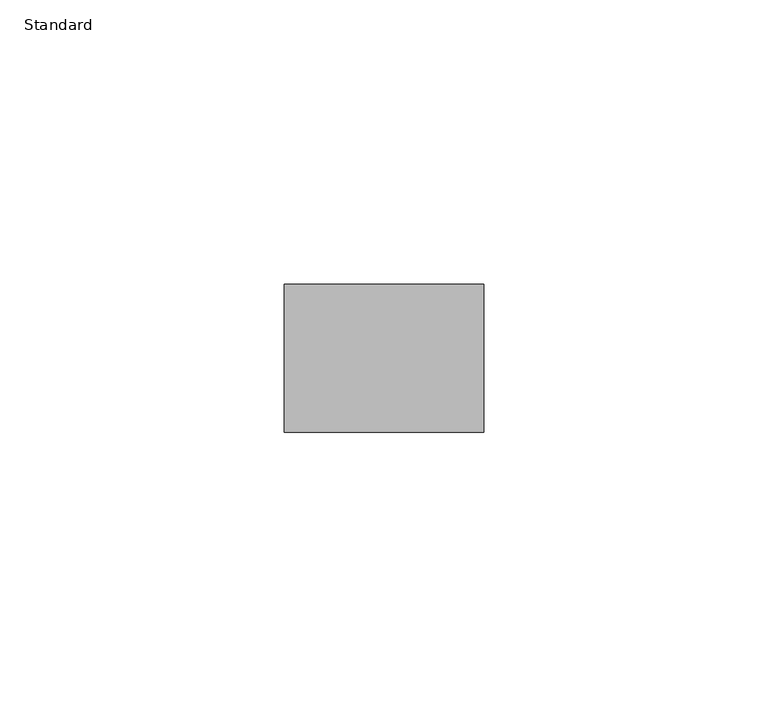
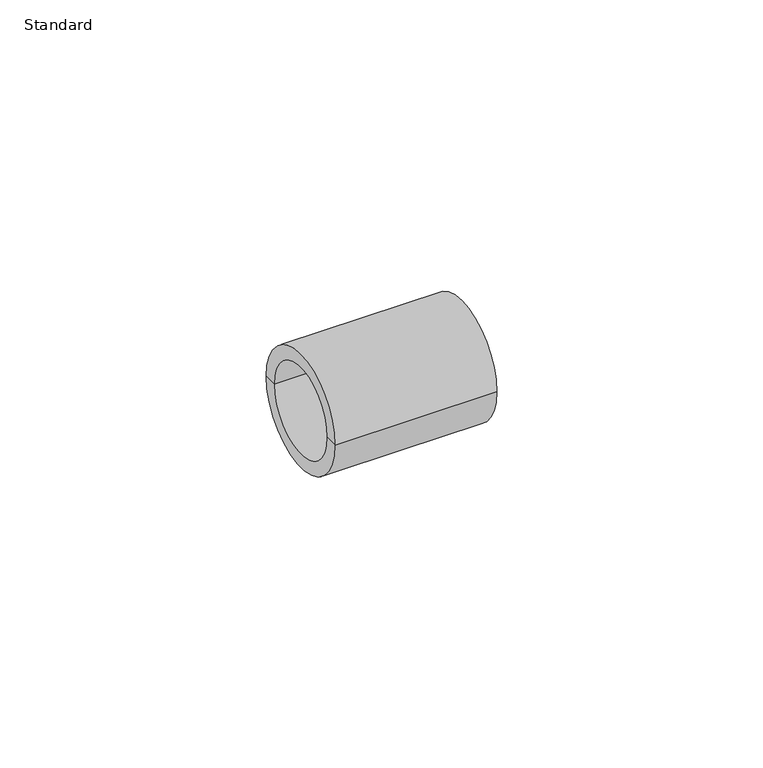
"""IFC4 building model written with IfcOpenShell, lengths in millimetres: pipe fitting geometry, Durapipe_PipeFitting_PVC_Socket : Standard."""

import ifcopenshell
import ifcopenshell.guid

model = None  # the IFC model being written
_history = None  # IfcOwnerHistory: only IFC2X3 demands one
_inside = {}  # id of a spatial element -> (the spatial element, [elements in it])
_under = {}  # id of a project, library or spatial element -> (it, [spatial elements below it])
_declared = {}  # id of a project -> (the project, [libraries it declares])
_typed = {}  # id of a type object -> (the type object, [elements of that type])
_made_of = {}  # id of a material, layer set ... -> (it, [elements and type objects made of it])


def new_model(schema):
    """Start an empty IFC model of exactly this schema.

    Asked for "IFC4X3", IfcOpenShell would pick the latest addendum, in which some entities
    have other attributes; the version numbers below select the first issue.
    IFC2X3 requires an IfcOwnerHistory on every rooted entity: one is made here for all.
    """
    global model, _history
    if schema == "IFC4X3":
        model = ifcopenshell.file(schema_version=(4, 3, 0, 0))
    else:
        model = ifcopenshell.file(schema=schema)
    _inside.clear()
    _under.clear()
    _declared.clear()
    _typed.clear()
    _made_of.clear()
    _history = None
    if model.schema == "IFC2X3":
        org = make("IfcOrganization", Name="unknown")
        user = make(
            "IfcPersonAndOrganization",
            ThePerson=make("IfcPerson", FamilyName="unknown"),
            TheOrganization=org,
        )
        app = make(
            "IfcApplication",
            ApplicationDeveloper=org,
            Version="unknown",
            ApplicationFullName="unknown",
            ApplicationIdentifier="unknown",
        )
        _history = make(
            "IfcOwnerHistory",
            OwningUser=user,
            OwningApplication=app,
            ChangeAction="ADDED",
            CreationDate=0,
        )
    return model


def make(cls, **values):
    """One entity of the class cls with the attributes given. An attribute that is None is left unset."""
    return model.create_entity(
        cls, **{name: value for name, value in values.items() if value is not None}
    )


def rooted(cls, **values):
    """An entity with a GlobalId (a new one), such as an element, a storey or a relation."""
    return make(cls, GlobalId=ifcopenshell.guid.new(), OwnerHistory=_history, **values)


def si_unit(unit_type, name, prefix=None):
    """IfcSIUnit, for example si_unit("LENGTHUNIT", "METRE", prefix="MILLI")."""
    return make("IfcSIUnit", UnitType=unit_type, Prefix=prefix, Name=name)


def assignment(units):
    """IfcUnitAssignment: the units of a project."""
    return None if units is None else make("IfcUnitAssignment", Units=units)


def point(xyz):
    """IfcCartesianPoint."""
    return None if xyz is None else make("IfcCartesianPoint", Coordinates=xyz)


def direction(xyz):
    """IfcDirection."""
    return None if xyz is None else make("IfcDirection", DirectionRatios=xyz)


def frame(location, z_axis=None, x_axis=None):
    """IfcAxis2Placement3D, a coordinate frame: its origin and axes. An axis left out is left unset."""
    return make(
        "IfcAxis2Placement3D",
        Location=point(location),
        Axis=direction(z_axis),
        RefDirection=direction(x_axis),
    )


def origin():
    """The frame at (0, 0, 0) with its axes left unset."""
    return frame((0.0, 0.0, 0.0))


def place(relative_to, where):
    """IfcLocalPlacement: puts the frame where relative to a parent placement (None: the world)."""
    return make(
        "IfcLocalPlacement", PlacementRelTo=relative_to, RelativePlacement=where
    )


def context(
    kind, dimensions, precision=None, world=None, true_north=None, identifier=None
):
    """IfcGeometricRepresentationContext, for example the 3D "Model" context."""
    return make(
        "IfcGeometricRepresentationContext",
        ContextIdentifier=identifier,
        ContextType=kind,
        CoordinateSpaceDimension=dimensions,
        Precision=precision,
        WorldCoordinateSystem=world,
        TrueNorth=true_north,
    )


def project(units=None, contexts=None):
    """IfcProject with its units and contexts."""
    return rooted(
        "IfcProject",
        Name="project",
        RepresentationContexts=contexts,
        UnitsInContext=assignment(units),
    )


def spatial(cls, under=None, at=None, **own):
    """A site, building, storey or space (cls), placed at a placement, below another one or the project."""
    s = rooted(cls, ObjectPlacement=at, **own)
    if under is not None:
        _under.setdefault(under.id(), (under, []))[1].append(s)
    return s


def polyline(points):
    """IfcPolyline through the points."""
    return make("IfcPolyline", Points=[point(p) for p in points])


def circle_curve(where, radius):
    """IfcCircle in the frame where."""
    return make("IfcCircle", Position=where, Radius=radius)


def shape(context_of_items, identifier, shape_type, items):
    """IfcShapeRepresentation: the items that make up one representation, for example the "Body"."""
    return make(
        "IfcShapeRepresentation",
        ContextOfItems=context_of_items,
        RepresentationIdentifier=identifier,
        RepresentationType=shape_type,
        Items=items,
    )


def source(mapping_origin, context_of_items, identifier, shape_type, items):
    """IfcRepresentationMap: a shape defined once, which mapped items show again and again."""
    return make(
        "IfcRepresentationMap",
        MappingOrigin=mapping_origin,
        MappedRepresentation=shape(context_of_items, identifier, shape_type, items),
    )


def transform(
    local_origin,
    x_axis=None,
    y_axis=None,
    z_axis=None,
    scale=None,
    scale2=None,
    scale3=None,
    uniform=True,
):
    """IfcCartesianTransformationOperator3D, or its non-uniform kind. x_axis, y_axis, z_axis: its Axis1, 2, 3."""
    if uniform:
        return make(
            "IfcCartesianTransformationOperator3D",
            Axis1=direction(x_axis),
            Axis2=direction(y_axis),
            LocalOrigin=point(local_origin),
            Scale=scale,
            Axis3=direction(z_axis),
        )
    return make(
        "IfcCartesianTransformationOperator3DnonUniform",
        Axis1=direction(x_axis),
        Axis2=direction(y_axis),
        LocalOrigin=point(local_origin),
        Scale=scale,
        Axis3=direction(z_axis),
        Scale2=scale2,
        Scale3=scale3,
    )


def mapped(mapping_source, mapping_target):
    """IfcMappedItem: shows the shape of a source again, moved by a transform."""
    return make(
        "IfcMappedItem", MappingSource=mapping_source, MappingTarget=mapping_target
    )


def made_of(thing, what):
    """Note that an element or type object is made of a material, layer set ...; save() writes the relation."""
    if what is not None:
        _made_of.setdefault(what.id(), (what, []))[1].append(thing)
    return thing


def element(
    cls,
    number,
    at=None,
    inside=None,
    cuts=None,
    type_object=None,
    material=None,
    context=None,
    identifier="Body",
    shape_type=None,
    held_by="IfcProductDefinitionShape",
    body=None,
    shapes=None,
    **own,
):
    """One element of the class cls, such as IfcWall. Its Tag is "e" and its number.

    at: its placement. inside: the storey or other place that contains it. cuts: it is an
    opening in that element (IfcRelVoidsElement). A single representation is given by context,
    identifier, shape_type and body (its items); several are given by shapes. held_by: the class
    of the entity that holds the representations. save() writes the other relations.
    """
    e = rooted(cls, Tag="e%d" % number, ObjectPlacement=at, **own)
    if body is not None:
        shapes = [shape(context, identifier, shape_type, body)]
    if shapes is not None:
        e.Representation = make(held_by, Representations=shapes)
    if inside is not None:
        _inside.setdefault(inside.id(), (inside, []))[1].append(e)
    if cuts is not None:
        rooted(
            "IfcRelVoidsElement", RelatingBuildingElement=cuts, RelatedOpeningElement=e
        )
    if type_object is not None:
        _typed.setdefault(type_object.id(), (type_object, []))[1].append(e)
    return made_of(e, material)


def aggregate(whole, parts):
    """IfcRelAggregates: a whole, such as a stair, and the parts it consists of."""
    return rooted("IfcRelAggregates", RelatingObject=whole, RelatedObjects=parts)


def save(model, path):
    """Write the relations noted so far, then the file.

    IfcRelAggregates (storeys below a building ...), IfcRelContainedInSpatialStructure (elements
    in a storey), IfcRelDefinesByType, IfcRelAssociatesMaterial and IfcRelDeclares: one each for
    every whole, place, type object, material and project.
    """
    for whole, parts in _under.values():
        aggregate(whole, parts)
    for where, things in _inside.values():
        rooted(
            "IfcRelContainedInSpatialStructure",
            RelatedElements=things,
            RelatingStructure=where,
        )
    for kind, things in _typed.values():
        rooted("IfcRelDefinesByType", RelatedObjects=things, RelatingType=kind)
    for what, things in _made_of.values():
        rooted("IfcRelAssociatesMaterial", RelatedObjects=things, RelatingMaterial=what)
    for by, libraries in _declared.values():
        rooted("IfcRelDeclares", RelatingContext=by, RelatedDefinitions=libraries)
    model.write(path)


def plane_surface(at):
    """IfcPlane: the flat surface through the origin of the frame at, square to its z axis."""
    return make("IfcPlane", Position=at)


def cylinder_surface(at, radius):
    """IfcCylindricalSurface: all points at the distance radius from the z axis of the frame at."""
    return make("IfcCylindricalSurface", Position=at, Radius=radius)


def revolved_surface(curve, axis_point, axis_direction):
    """IfcSurfaceOfRevolution: the curve turned about the line through axis_point along axis_direction."""
    return make(
        "IfcSurfaceOfRevolution",
        SweptCurve=make("IfcArbitraryOpenProfileDef", ProfileType="CURVE", Curve=curve),
        AxisPosition=make("IfcAxis1Placement", Location=point(axis_point), Axis=direction(axis_direction)),
    )


def advanced_brep(points, edges, surfaces, faces):
    """IfcAdvancedBrep: a solid bounded by faces that lie on surfaces and meet in shared edges.

    An edge is (start, end): straight between two places in points (the first is 0);
    or (start, end, curve); or (start, end, curve, False) where it runs against its curve.
    A face is (place in surfaces, loops), or (place, loops, False) where it looks against
    its surface's normal. A loop lists edges by number (the first is 1), with a minus sign
    where the edge is run from its end to its start. The first loop is the outer one.
    """
    corners = [point(p) for p in points]
    vertices = [make("IfcVertexPoint", VertexGeometry=c) for c in corners]
    made = []
    for start, end, *more in edges:
        made.append(
            make(
                "IfcEdgeCurve",
                EdgeStart=vertices[start],
                EdgeEnd=vertices[end],
                EdgeGeometry=more[0] if more else make("IfcPolyline", Points=[corners[start], corners[end]]),
                SameSense=more[1] if len(more) > 1 else True,
            )
        )
    hull = []
    for where, loops, *sense in faces:
        bounds = []
        for j, loop in enumerate(loops):
            ring = [make("IfcOrientedEdge", EdgeElement=made[abs(k) - 1], Orientation=k > 0) for k in loop]
            bounds.append(
                make(
                    "IfcFaceOuterBound" if j == 0 else "IfcFaceBound",
                    Bound=make("IfcEdgeLoop", EdgeList=ring),
                    Orientation=True,
                )
            )
        hull.append(make("IfcAdvancedFace", Bounds=bounds, FaceSurface=surfaces[where], SameSense=sense[0] if sense else True))
    return make("IfcAdvancedBrep", Outer=make("IfcClosedShell", CfsFaces=hull))


def standard_ac86aa57(model_context):
    return source(origin(), model_context, "Body", "AdvancedBrep", [
        advanced_brep(
        [(-17.5, -13.0, 0.0), (-17.5, 13.0, 0.0), (17.5, 13.0, 0.0), (17.5, -13.0, 0.0), (-17.5, -10.0, 0.0), (-17.5, 10.0, 0.0), (1.5, -7.0, 0.0), (1.5, 7.0, 0.0), (-1.5, 7.0, 0.0), (-1.5, -7.0, 0.0), (17.5, 10.0, 0.0), (17.5, -10.0, 0.0), (-1.5, -10.0, 0.0), (-1.5, 10.0, 0.0), (1.5, -10.0, 0.0), (1.5, 10.0, 0.0)],
        [
            (0, 1, circle_curve(frame((-17.5, 0.0, 0.0), z_axis=(1.0, 0.0, 0.0), x_axis=(0.0, 1.0, 0.0)), 13.0)),
            (1, 2),
            (2, 3, circle_curve(frame((17.5, 0.0, 0.0), z_axis=(-1.0, 0.0, 0.0), x_axis=(0.0, 1.0, 0.0)), 13.0)),
            (3, 0),
            (1, 0, circle_curve(frame((-17.5, 0.0, 0.0), z_axis=(1.0, 0.0, 0.0), x_axis=(0.0, 1.0, 0.0)), 13.0)),
            (3, 2, circle_curve(frame((17.5, 0.0, 0.0), z_axis=(-1.0, 0.0, 0.0), x_axis=(0.0, 1.0, 0.0)), 13.0)),
            (4, 5, circle_curve(frame((-17.5, 0.0, 0.0), z_axis=(1.0, 0.0, 0.0), x_axis=(0.0, 1.0, 0.0)), 10.0)),
            (5, 1),
            (0, 4),
            (5, 4, circle_curve(frame((-17.5, 0.0, 0.0), z_axis=(1.0, 0.0, 0.0), x_axis=(0.0, 1.0, 0.0)), 10.0)),
            (6, 7, circle_curve(frame((1.5, 0.0, 0.0), z_axis=(1.0, 0.0, 0.0), x_axis=(0.0, 1.0, 0.0)), 7.0)),
            (7, 8),
            (8, 9, circle_curve(frame((-1.5, 0.0, 0.0), z_axis=(-1.0, 0.0, 0.0), x_axis=(0.0, 1.0, 0.0)), 7.0)),
            (9, 6),
            (7, 6, circle_curve(frame((1.5, 0.0, 0.0), z_axis=(1.0, 0.0, 0.0), x_axis=(0.0, 1.0, 0.0)), 7.0)),
            (9, 8, circle_curve(frame((-1.5, 0.0, 0.0), z_axis=(-1.0, 0.0, 0.0), x_axis=(0.0, 1.0, 0.0)), 7.0)),
            (2, 10),
            (10, 11, circle_curve(frame((17.5, 0.0, 0.0), z_axis=(-1.0, 0.0, 0.0), x_axis=(0.0, 1.0, 0.0)), 10.0)),
            (11, 3),
            (11, 10, circle_curve(frame((17.5, 0.0, 0.0), z_axis=(-1.0, 0.0, 0.0), x_axis=(0.0, 1.0, 0.0)), 10.0)),
            (12, 13, circle_curve(frame((-1.5, 0.0, 0.0), z_axis=(1.0, 0.0, 0.0), x_axis=(0.0, 1.0, 0.0)), 10.0)),
            (13, 5),
            (4, 12),
            (13, 12, circle_curve(frame((-1.5, 0.0, 0.0), z_axis=(1.0, 0.0, 0.0), x_axis=(0.0, 1.0, 0.0)), 10.0)),
            (8, 13),
            (12, 9),
            (14, 15, circle_curve(frame((1.5, 0.0, 0.0), z_axis=(1.0, 0.0, 0.0), x_axis=(0.0, 1.0, 0.0)), 10.0)),
            (15, 7),
            (6, 14),
            (15, 14, circle_curve(frame((1.5, 0.0, 0.0), z_axis=(1.0, 0.0, 0.0), x_axis=(0.0, 1.0, 0.0)), 10.0)),
            (10, 15),
            (14, 11),
        ],
        [
            cylinder_surface(frame((-17.5, 0.0, 0.0), z_axis=(-1.0, 0.0, 0.0), x_axis=(0.0, 1.0, 0.0)), 13.0),
            plane_surface(frame((-17.5, 0.0, 0.0), z_axis=(-1.0, 0.0, 0.0), x_axis=(0.0, 1.0, 0.0))),
            revolved_surface(polyline([(-1.5, 7.0, 0.0), (1.5, 7.0, 0.0)]), (-17.5, 0.0, 0.0), (-1.0, 0.0, 0.0)),
            plane_surface(frame((17.5, 0.0, 0.0), z_axis=(1.0, 0.0, 0.0), x_axis=(0.0, 1.0, 0.0))),
            revolved_surface(polyline([(-17.5, 10.0, 0.0), (-1.5, 10.0, 0.0)]), (-17.5, 0.0, 0.0), (-1.0, 0.0, 0.0)),
            plane_surface(frame((-1.5, 0.0, 0.0), z_axis=(-1.0, 0.0, 0.0), x_axis=(0.0, 1.0, 0.0))),
            plane_surface(frame((1.5, 0.0, 0.0), z_axis=(1.0, 0.0, 0.0), x_axis=(0.0, 1.0, 0.0))),
            revolved_surface(polyline([(1.5, 10.0, 0.0), (17.5, 10.0, 0.0)]), (-17.5, 0.0, 0.0), (-1.0, 0.0, 0.0)),
        ],
        [
            (0, [[1, 2, 3, 4]]),
            (0, [[5, -4, 6, -2]]),
            (1, [[7, 8, -1, 9]]),
            (1, [[10, -9, -5, -8]]),
            (2, [[11, 12, 13, 14]]),
            (2, [[15, -14, 16, -12]]),
            (3, [[-3, 17, 18, 19]]),
            (3, [[-6, -19, 20, -17]]),
            (4, [[21, 22, -7, 23]]),
            (4, [[24, -23, -10, -22]]),
            (5, [[-13, 25, -21, 26]]),
            (5, [[-16, -26, -24, -25]]),
            (6, [[27, 28, -11, 29]]),
            (6, [[30, -29, -15, -28]]),
            (7, [[-18, 31, -27, 32]]),
            (7, [[-20, -32, -30, -31]]),
        ],
    ),
    ])


if __name__ == "__main__":
    model = new_model("IFC4")
    model_context = context("Model", 3, world=origin())
    ifc_project = project(units=[si_unit("LENGTHUNIT", "METRE", prefix="MILLI")], contexts=[model_context])
    site = spatial("IfcSite", under=ifc_project)
    building = spatial("IfcBuilding", under=site)
    placement = place(None, origin())
    standard_shape = standard_ac86aa57(model_context)
    element("IfcPipeFitting", 1, ObjectType="Durapipe_PipeFitting_PVC_Socket : Standard", at=placement, inside=building, context=model_context, shape_type="MappedRepresentation", body=[
        mapped(standard_shape, transform((0.0, 0.0, 0.0), x_axis=(1.0, 0.0, 0.0), y_axis=(0.0, 1.0, 0.0), z_axis=(0.0, 0.0, 1.0))),
    ])
    save(model, "model.ifc")
